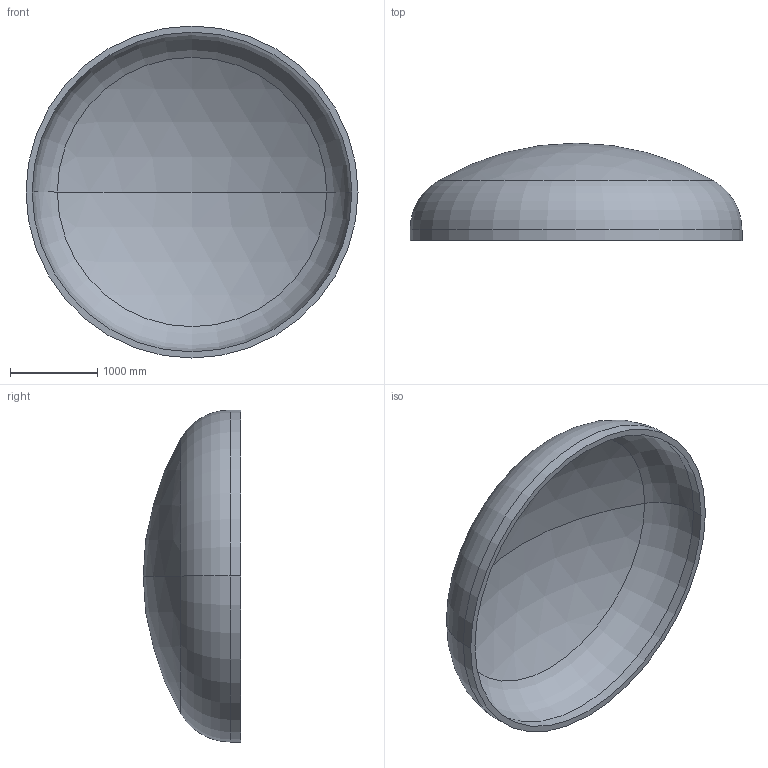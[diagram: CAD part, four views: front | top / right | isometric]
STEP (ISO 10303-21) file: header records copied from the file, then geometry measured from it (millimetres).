
FILE_DESCRIPTION (( 'STEP AP203' ), '1' );
FILE_NAME ('DIN 28013 Korbbogenform_-_Boden DIN 28013 - 3800 x 120 - I - s=70.step', '2016-07-01T21:36:53', ( '' ), ( '' ), 'SwSTEP 2.0', 'SolidWorks 2013', '' );
FILE_SCHEMA (( 'CONFIG_CONTROL_DESIGN' ));
Length unit declared in the file: millimetre
Products named in the file (1): DIN 28013 Korbbogenform_-_Boden DIN 28013 - 3800 x 120 - I - s=70
Bounding box: 3800 x 1114.11 x 3800 mm (x, y, z)
Volume: 1171500714.5 mm3; surface area: 34301969.6 mm2
Topology: 1 solids, 1 shells, 13 faces, 24 edges, 14 vertices
Faces by surface type: torus 4, cylinder 4, sphere 4, plane 1
Entity records: 407 total; most frequent: DIRECTION 72, CARTESIAN_POINT 52, ORIENTED_EDGE 48, AXIS2_PLACEMENT_3D 34, EDGE_CURVE 24, CIRCLE 20, VERTEX_POINT 14, EDGE_LOOP 14
